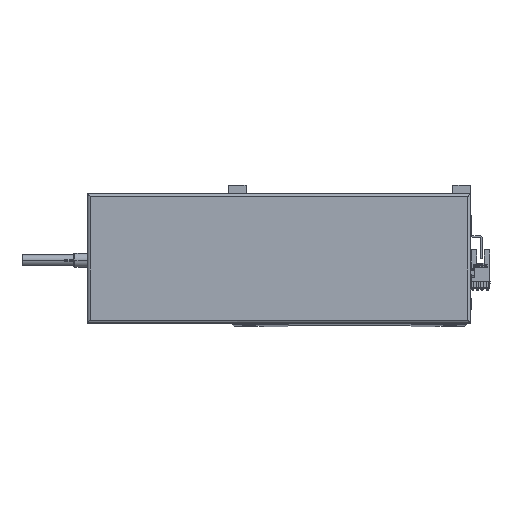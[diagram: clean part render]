
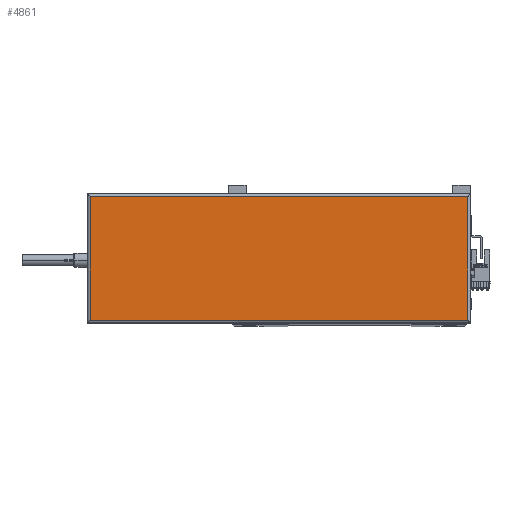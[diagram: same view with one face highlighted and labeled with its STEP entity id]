
A CAD part, top view. The second image highlights one B-rep face of the part: STEP entity #4861.
In plain terms, the highlighted planar face has unit normal (0, 0, 1).
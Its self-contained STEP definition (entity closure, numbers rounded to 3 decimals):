
#2870 = DIRECTION ( 'NONE',  ( 1., 0., 0. ) ) ;
#3586 = EDGE_CURVE ( 'NONE', #17682, #36872, #16270, .T. ) ;
#4653 = DIRECTION ( 'NONE',  ( 0., 0., 1. ) ) ;
#4861 = ADVANCED_FACE ( 'NONE', ( #8009 ), #16402, .T. ) ;
#6347 = VECTOR ( 'NONE', #2870, 1000. ) ;
#6928 = VECTOR ( 'NONE', #11138, 1000. ) ;
#7485 = VERTEX_POINT ( 'NONE', #12016 ) ;
#8009 = FACE_OUTER_BOUND ( 'NONE', #42912, .T. ) ;
#8113 = ORIENTED_EDGE ( 'NONE', *, *, #40557, .T. ) ;
#11138 = DIRECTION ( 'NONE',  ( 0., 1., 0. ) ) ;
#12016 = CARTESIAN_POINT ( 'NONE',  ( 2., 2., 44.8 ) ) ;
#12547 = VECTOR ( 'NONE', #46317, 1000. ) ;
#14201 = CARTESIAN_POINT ( 'NONE',  ( 2., 0., 44.8 ) ) ;
#14562 = EDGE_CURVE ( 'NONE', #36872, #7485, #18096, .T. ) ;
#16270 = LINE ( 'NONE', #27832, #34736 ) ;
#16402 = PLANE ( 'NONE',  #27976 ) ;
#17374 = ORIENTED_EDGE ( 'NONE', *, *, #14562, .T. ) ;
#17682 = VERTEX_POINT ( 'NONE', #31965 ) ;
#18096 = LINE ( 'NONE', #14201, #12547 ) ;
#18693 = LINE ( 'NONE', #46041, #6347 ) ;
#21737 = ORIENTED_EDGE ( 'NONE', *, *, #40742, .T. ) ;
#23500 = ORIENTED_EDGE ( 'NONE', *, *, #3586, .T. ) ;
#27025 = CARTESIAN_POINT ( 'NONE',  ( 2., 88., 44.8 ) ) ;
#27309 = LINE ( 'NONE', #50893, #6928 ) ;
#27832 = CARTESIAN_POINT ( 'NONE',  ( 0., 88., 44.8 ) ) ;
#27976 = AXIS2_PLACEMENT_3D ( 'NONE', #36380, #4653, #48378 ) ;
#31965 = CARTESIAN_POINT ( 'NONE',  ( 265., 88., 44.8 ) ) ;
#34736 = VECTOR ( 'NONE', #35923, 1000. ) ;
#35923 = DIRECTION ( 'NONE',  ( -1., 0., 0. ) ) ;
#36380 = CARTESIAN_POINT ( 'NONE',  ( 133.5, 45., 44.8 ) ) ;
#36872 = VERTEX_POINT ( 'NONE', #27025 ) ;
#37687 = CARTESIAN_POINT ( 'NONE',  ( 265., 2., 44.8 ) ) ;
#40557 = EDGE_CURVE ( 'NONE', #7485, #44507, #18693, .T. ) ;
#40742 = EDGE_CURVE ( 'NONE', #44507, #17682, #27309, .T. ) ;
#42912 = EDGE_LOOP ( 'NONE', ( #21737, #23500, #17374, #8113 ) ) ;
#44507 = VERTEX_POINT ( 'NONE', #37687 ) ;
#46041 = CARTESIAN_POINT ( 'NONE',  ( 267., 2., 44.8 ) ) ;
#46317 = DIRECTION ( 'NONE',  ( 0., -1., 0. ) ) ;
#48378 = DIRECTION ( 'NONE',  ( 1., 0., 0. ) ) ;
#50893 = CARTESIAN_POINT ( 'NONE',  ( 265., 90., 44.8 ) ) ;
